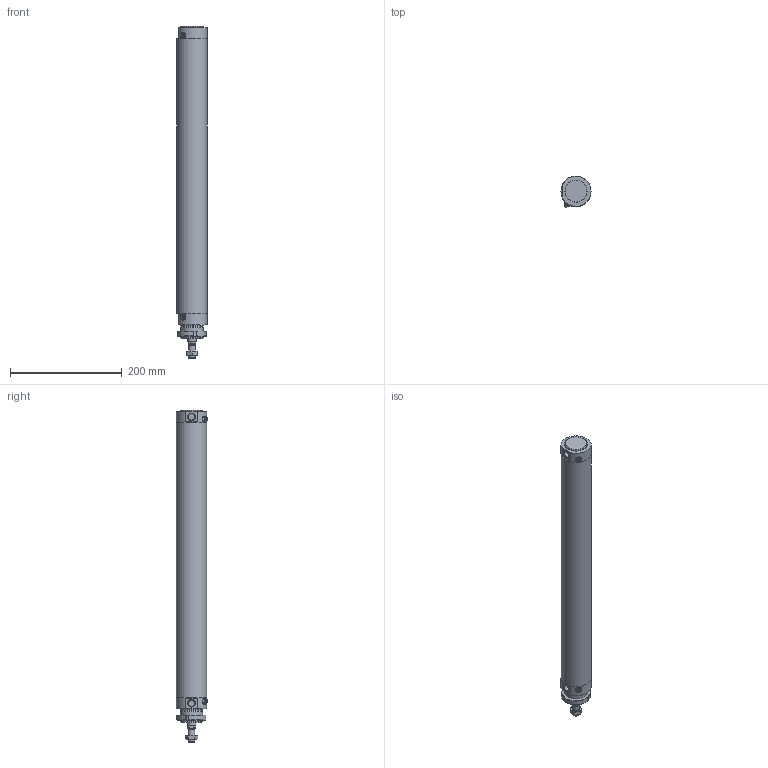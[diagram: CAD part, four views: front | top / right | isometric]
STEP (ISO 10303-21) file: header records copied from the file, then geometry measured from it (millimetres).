
FILE_DESCRIPTION(/* description */ (''),/* implementation_level */ '2;1');
FILE_NAME(/* name */ 'I:\Area Tecnica\Documenti\A-Manieri\_Inventor\12X\12X#D_###_####_#_#\12XBD_050_0450_#_#.stp',/* time_stamp */ '2015-05-04T15:13:16+02:00',/* author */ ('maniean1'),/* organization */ ('Pneumax S.p.A.'),/* preprocessor_version */ 'ST-DEVELOPER v15.2',/* originating_system */ 'Autodesk Inventor 2014',/* authorisation */ '');
FILE_SCHEMA (('AUTOMOTIVE_DESIGN { 1 0 10303 214 3 1 1 }'));
Length unit declared in the file: millimetre
Products named in the file (7): C1250_619-0450; 12X50_606; S12X50_0450; 12X_50_11; 12X50_612; G12X_050_05; 12XBD_050_0450_#_#
Bounding box: 54 x 55.88 x 595 mm (x, y, z)
Volume: 473684.6 mm3; surface area: 225494.7 mm2
Topology: 6 solids, 6 shells, 99 faces, 217 edges, 140 vertices
Faces by surface type: plane 53, cylinder 25, cone 19, torus 2
Full cylindrical faces by diameter (mm): 5 x2, 10.2 x1, 11 x2, 11.4 x2, 12 x2, 14 x1, 15.6 x1, 16 x1, 38.2 x1, 40 x4, 50 x2, 54 x3
Entity records: 2667 total; most frequent: CARTESIAN_POINT 540, DIRECTION 444, ORIENTED_EDGE 348, AXIS2_PLACEMENT_3D 188, EDGE_CURVE 174, EDGE_LOOP 152, VERTEX_POINT 132, ADVANCED_FACE 99
